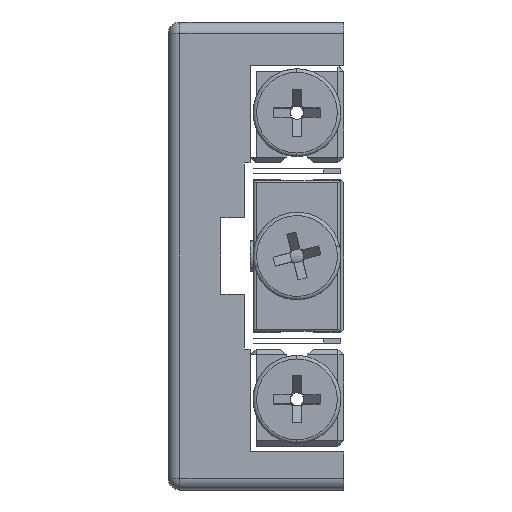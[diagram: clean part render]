
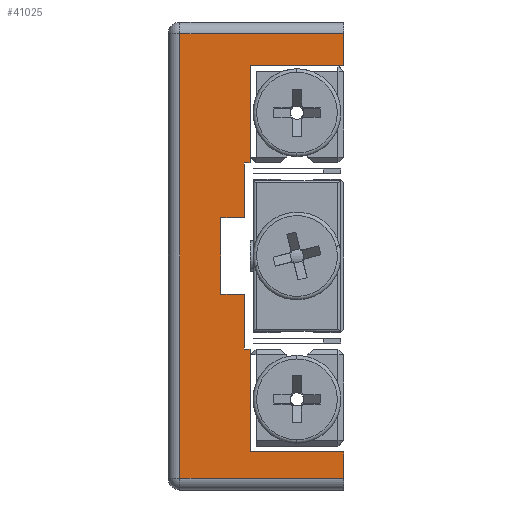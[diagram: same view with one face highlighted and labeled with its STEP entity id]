
A CAD part, left-side view. The second image highlights one B-rep face of the part: STEP entity #41025.
In plain terms, the highlighted planar face has unit normal (-1, 0, 0).
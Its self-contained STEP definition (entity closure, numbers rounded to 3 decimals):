
#3446 = EDGE_CURVE ( 'NONE', #16195, #16212, #31567, .T. ) ;
#3472 = EDGE_CURVE ( 'NONE', #16244, #16241, #31615, .T. ) ;
#3475 = EDGE_CURVE ( 'NONE', #16212, #29958, #31620, .T. ) ;
#3502 = EDGE_CURVE ( 'NONE', #29958, #16244, #31656, .T. ) ;
#3506 = EDGE_CURVE ( 'NONE', #46748, #46675, #31667, .T. ) ;
#3526 = EDGE_CURVE ( 'NONE', #46215, #29948, #31686, .T. ) ;
#3558 = EDGE_CURVE ( 'NONE', #30036, #16298, #31750, .T. ) ;
#3562 = EDGE_CURVE ( 'NONE', #29948, #46748, #31755, .T. ) ;
#3620 = EDGE_CURVE ( 'NONE', #46675, #30036, #31837, .T. ) ;
#3657 = EDGE_CURVE ( 'NONE', #16241, #46215, #31884, .T. ) ;
#5748 = CARTESIAN_POINT ( 'NONE',  ( -51.622, 6.381, 16.25 ) ) ;
#5765 = CARTESIAN_POINT ( 'NONE',  ( -51.622, 14.381, 16.25 ) ) ;
#5794 = CARTESIAN_POINT ( 'NONE',  ( -51.622, 14.881, 3.25 ) ) ;
#5797 = CARTESIAN_POINT ( 'NONE',  ( -51.622, 14.881, 7.95 ) ) ;
#5851 = CARTESIAN_POINT ( 'NONE',  ( -51.622, 14.381, -16.75 ) ) ;
#7606 = VERTEX_POINT ( 'NONE', #25197 ) ;
#8050 = VERTEX_POINT ( 'NONE', #25305 ) ;
#10931 = CARTESIAN_POINT ( 'NONE',  ( -51.622, 21.381, 19. ) ) ;
#10934 = DIRECTION ( 'NONE',  ( 0., 1., 0. ) ) ;
#16010 = CARTESIAN_POINT ( 'NONE',  ( -51.622, 6.381, -19. ) ) ;
#16115 = VERTEX_POINT ( 'NONE', #16010 ) ;
#16195 = VERTEX_POINT ( 'NONE', #5748 ) ;
#16212 = VERTEX_POINT ( 'NONE', #5765 ) ;
#16241 = VERTEX_POINT ( 'NONE', #5794 ) ;
#16244 = VERTEX_POINT ( 'NONE', #5797 ) ;
#16298 = VERTEX_POINT ( 'NONE', #5851 ) ;
#19573 = EDGE_CURVE ( 'NONE', #30367, #30356, #44258, .T. ) ;
#20827 = ORIENTED_EDGE ( 'NONE', *, *, #21602, .T. ) ;
#21591 = EDGE_CURVE ( 'NONE', #16115, #7606, #45506, .T. ) ;
#21593 = EDGE_CURVE ( 'NONE', #8050, #16115, #45509, .T. ) ;
#21595 = EDGE_CURVE ( 'NONE', #16195, #30367, #45500, .T. ) ;
#21601 = EDGE_CURVE ( 'NONE', #16298, #7606, #45520, .T. ) ;
#21602 = EDGE_CURVE ( 'NONE', #30356, #8050, #45523, .T. ) ;
#22252 = ORIENTED_EDGE ( 'NONE', *, *, #3620, .F. ) ;
#22256 = ORIENTED_EDGE ( 'NONE', *, *, #21591, .T. ) ;
#22269 = ORIENTED_EDGE ( 'NONE', *, *, #19573, .T. ) ;
#22285 = ORIENTED_EDGE ( 'NONE', *, *, #21601, .F. ) ;
#22288 = ORIENTED_EDGE ( 'NONE', *, *, #21593, .T. ) ;
#22290 = ORIENTED_EDGE ( 'NONE', *, *, #3506, .F. ) ;
#22292 = ORIENTED_EDGE ( 'NONE', *, *, #3558, .F. ) ;
#22294 = ORIENTED_EDGE ( 'NONE', *, *, #21595, .T. ) ;
#22298 = ORIENTED_EDGE ( 'NONE', *, *, #3472, .F. ) ;
#22300 = ORIENTED_EDGE ( 'NONE', *, *, #3502, .F. ) ;
#22302 = ORIENTED_EDGE ( 'NONE', *, *, #3475, .F. ) ;
#22304 = ORIENTED_EDGE ( 'NONE', *, *, #3562, .F. ) ;
#22308 = ORIENTED_EDGE ( 'NONE', *, *, #3526, .F. ) ;
#22312 = ORIENTED_EDGE ( 'NONE', *, *, #3657, .F. ) ;
#22361 = ORIENTED_EDGE ( 'NONE', *, *, #3446, .F. ) ;
#24866 = CARTESIAN_POINT ( 'NONE',  ( -51.622, 16.881, 3.25 ) ) ;
#24922 = DIRECTION ( 'NONE',  ( 0., 1., 0. ) ) ;
#25197 = CARTESIAN_POINT ( 'NONE',  ( -51.622, 6.381, -16.75 ) ) ;
#25305 = CARTESIAN_POINT ( 'NONE',  ( -51.622, 20.381, -19. ) ) ;
#29948 = VERTEX_POINT ( 'NONE', #32000 ) ;
#29958 = VERTEX_POINT ( 'NONE', #32006 ) ;
#30036 = VERTEX_POINT ( 'NONE', #32051 ) ;
#30356 = VERTEX_POINT ( 'NONE', #32227 ) ;
#30367 = VERTEX_POINT ( 'NONE', #32233 ) ;
#31567 = LINE ( 'NONE', #43675, #31578 ) ;
#31578 = VECTOR ( 'NONE', #43649, 1000. ) ;
#31615 = LINE ( 'NONE', #43178, #31618 ) ;
#31618 = VECTOR ( 'NONE', #43181, 1000. ) ;
#31620 = LINE ( 'NONE', #43183, #31622 ) ;
#31622 = VECTOR ( 'NONE', #43185, 1000. ) ;
#31656 = LINE ( 'NONE', #43453, #31662 ) ;
#31662 = VECTOR ( 'NONE', #43388, 1000. ) ;
#31667 = LINE ( 'NONE', #43395, #31669 ) ;
#31669 = VECTOR ( 'NONE', #43402, 1000. ) ;
#31686 = LINE ( 'NONE', #43439, #31703 ) ;
#31703 = VECTOR ( 'NONE', #43046, 1000. ) ;
#31750 = LINE ( 'NONE', #40746, #31752 ) ;
#31752 = VECTOR ( 'NONE', #40745, 1000. ) ;
#31755 = LINE ( 'NONE', #40723, #31758 ) ;
#31758 = VECTOR ( 'NONE', #40725, 1000. ) ;
#31837 = LINE ( 'NONE', #40819, #31839 ) ;
#31839 = VECTOR ( 'NONE', #40803, 1000. ) ;
#31884 = LINE ( 'NONE', #24866, #31888 ) ;
#31888 = VECTOR ( 'NONE', #24922, 1000. ) ;
#32000 = CARTESIAN_POINT ( 'NONE',  ( -51.622, 16.881, -3.25 ) ) ;
#32006 = CARTESIAN_POINT ( 'NONE',  ( -51.622, 14.381, 7.95 ) ) ;
#32051 = CARTESIAN_POINT ( 'NONE',  ( -51.622, 14.381, -7.95 ) ) ;
#32227 = CARTESIAN_POINT ( 'NONE',  ( -51.622, 20.381, 19. ) ) ;
#32233 = CARTESIAN_POINT ( 'NONE',  ( -51.622, 6.381, 19. ) ) ;
#33164 = AXIS2_PLACEMENT_3D ( 'NONE', #37249, #37257, #37258 ) ;
#36317 = FACE_OUTER_BOUND ( 'NONE', #41522, .T. ) ;
#37249 = CARTESIAN_POINT ( 'NONE',  ( -51.622, 21.381, -20. ) ) ;
#37254 = PLANE ( 'NONE',  #33164 ) ;
#37257 = DIRECTION ( 'NONE',  ( 1., 0., 0. ) ) ;
#37258 = DIRECTION ( 'NONE',  ( 0., 0., -1. ) ) ;
#40013 = CARTESIAN_POINT ( 'NONE',  ( -51.622, 16.881, 3.25 ) ) ;
#40723 = CARTESIAN_POINT ( 'NONE',  ( -51.622, 14.881, -3.25 ) ) ;
#40725 = DIRECTION ( 'NONE',  ( 0., -1., 0. ) ) ;
#40745 = DIRECTION ( 'NONE',  ( 0., 0., -1. ) ) ;
#40746 = CARTESIAN_POINT ( 'NONE',  ( -51.622, 14.381, -16.75 ) ) ;
#40803 = DIRECTION ( 'NONE',  ( 0., -1., 0. ) ) ;
#40819 = CARTESIAN_POINT ( 'NONE',  ( -51.622, 14.381, -7.95 ) ) ;
#41025 = ADVANCED_FACE ( 'NONE', ( #36317 ), #37254, .F. ) ;
#41522 = EDGE_LOOP ( 'NONE', ( #20827, #22288, #22256, #22285, #22292, #22252, #22290, #22304, #22308, #22312, #22298, #22300, #22302, #22361, #22294, #22269 ) ) ;
#42242 = CARTESIAN_POINT ( 'NONE',  ( -51.622, 14.881, -7.95 ) ) ;
#42307 = CARTESIAN_POINT ( 'NONE',  ( -51.622, 14.881, -3.25 ) ) ;
#43046 = DIRECTION ( 'NONE',  ( 0., 0., -1. ) ) ;
#43178 = CARTESIAN_POINT ( 'NONE',  ( -51.622, 14.881, 3.25 ) ) ;
#43181 = DIRECTION ( 'NONE',  ( 0., 0., -1. ) ) ;
#43183 = CARTESIAN_POINT ( 'NONE',  ( -51.622, 14.381, 7.95 ) ) ;
#43185 = DIRECTION ( 'NONE',  ( 0., 0., -1. ) ) ;
#43388 = DIRECTION ( 'NONE',  ( 0., 1., 0. ) ) ;
#43395 = CARTESIAN_POINT ( 'NONE',  ( -51.622, 14.881, -7.95 ) ) ;
#43402 = DIRECTION ( 'NONE',  ( 0., 0., -1. ) ) ;
#43439 = CARTESIAN_POINT ( 'NONE',  ( -51.622, 16.881, -3.25 ) ) ;
#43453 = CARTESIAN_POINT ( 'NONE',  ( -51.622, 14.881, 7.95 ) ) ;
#43649 = DIRECTION ( 'NONE',  ( 0., 1., 0. ) ) ;
#43675 = CARTESIAN_POINT ( 'NONE',  ( -51.622, 14.381, 16.25 ) ) ;
#44258 = LINE ( 'NONE', #10931, #44264 ) ;
#44264 = VECTOR ( 'NONE', #10934, 1000. ) ;
#45500 = LINE ( 'NONE', #46778, #45516 ) ;
#45506 = LINE ( 'NONE', #46773, #45508 ) ;
#45508 = VECTOR ( 'NONE', #46774, 1000. ) ;
#45509 = LINE ( 'NONE', #46784, #45512 ) ;
#45512 = VECTOR ( 'NONE', #46785, 1000. ) ;
#45516 = VECTOR ( 'NONE', #46789, 1000. ) ;
#45520 = LINE ( 'NONE', #46812, #45524 ) ;
#45523 = LINE ( 'NONE', #46814, #45526 ) ;
#45524 = VECTOR ( 'NONE', #46813, 1000. ) ;
#45526 = VECTOR ( 'NONE', #46815, 1000. ) ;
#46215 = VERTEX_POINT ( 'NONE', #40013 ) ;
#46675 = VERTEX_POINT ( 'NONE', #42242 ) ;
#46748 = VERTEX_POINT ( 'NONE', #42307 ) ;
#46773 = CARTESIAN_POINT ( 'NONE',  ( -51.622, 6.381, -20. ) ) ;
#46774 = DIRECTION ( 'NONE',  ( 0., 0., 1. ) ) ;
#46778 = CARTESIAN_POINT ( 'NONE',  ( -51.622, 6.381, -20. ) ) ;
#46784 = CARTESIAN_POINT ( 'NONE',  ( -51.622, 21.381, -19. ) ) ;
#46785 = DIRECTION ( 'NONE',  ( 0., -1., 0. ) ) ;
#46789 = DIRECTION ( 'NONE',  ( 0., 0., 1. ) ) ;
#46812 = CARTESIAN_POINT ( 'NONE',  ( -51.622, 14.381, -16.75 ) ) ;
#46813 = DIRECTION ( 'NONE',  ( 0., -1., 0. ) ) ;
#46814 = CARTESIAN_POINT ( 'NONE',  ( -51.622, 20.381, -20. ) ) ;
#46815 = DIRECTION ( 'NONE',  ( 0., 0., -1. ) ) ;
